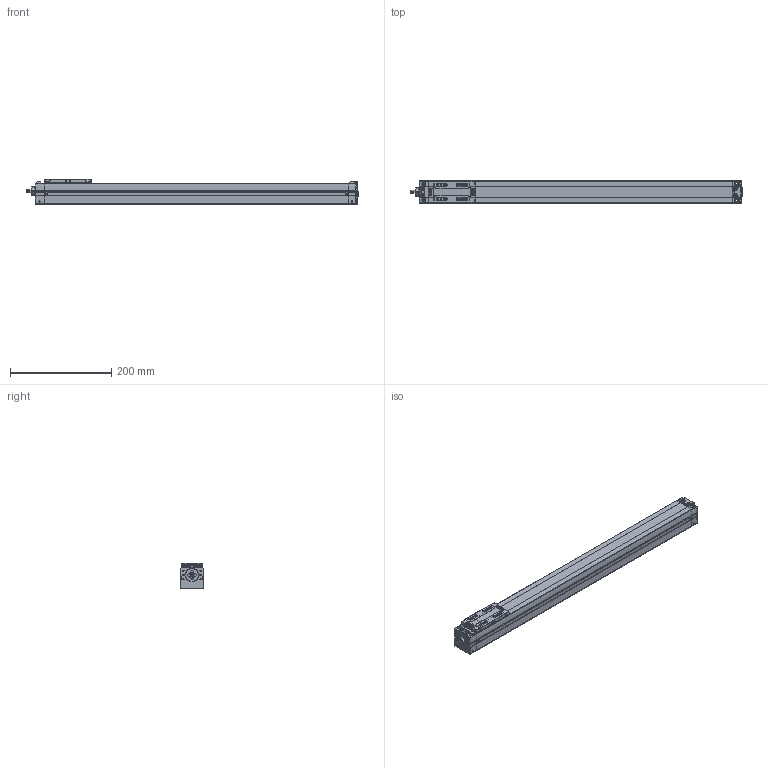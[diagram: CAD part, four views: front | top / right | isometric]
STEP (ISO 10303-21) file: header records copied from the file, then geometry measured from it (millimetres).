
FILE_DESCRIPTION(('STEP AP214'),'1');
FILE_NAME('Z:/Web/3D/SAN45/STP/SAN45ㅁㅁ-500.stp','2012-06-15T07:20:53',(' '),(' '),'Spatial InterOp 3D',' ',' ');
FILE_SCHEMA(('automotive_design'));
Length unit declared in the file: metre
Products named in the file (27): SAN45__-500; BODY-SAN45; REAR-SAN45; RRCV-SAN45; BHCS M3 x 6L; BHCS M3 X 6L; FRONT-SAN45; SHAFT; RN8 x 0.75; SSFX-SAN45; SLIDE-SAN45; SLCV-IM45; FHCS M3 x 6L
Assembly tree (26 placements, depth 3):
  SAN45__-500
    BODY-SAN45
    REAR-SAN45
      REAR-SAN45
      RRCV-SAN45
      BHCS M3 x 6L
      BHCS M3 X 6L
      BHCS M3 x 6L
      BHCS M3 x 6L
      BHCS M3 x 6L
      BHCS M3 x 6L
    FRONT-SAN45
      FRONT-SAN45
      SHAFT
      RN8 x 0.75
      SSFX-SAN45
      BHCS M3 x 6L
      BHCS M3 x 6L
      BHCS M3 x 6L
      BHCS M3 x 6L
    SLIDE-SAN45
      SLIDE-SAN45
      SLCV-IM45
      FHCS M3 x 6L
      FHCS M3 x 6L
      FHCS M3 x 6L
      FHCS M3 x 6L
Bounding box: 654.65 x 47.13 x 50 mm (x, y, z)
Volume: 1167699.1 mm3; surface area: 167408.5 mm2
Topology: 23 solids, 23 shells, 1377 faces, 3542 edges, 2300 vertices
Faces by surface type: plane 838, cylinder 396, cone 71, bspline 38, sphere 22, torus 9, extrusion 3
Full cylindrical faces by diameter (mm): 0.376 x2, 0.47 x1, 1.137 x2, 1.421 x1, 1.665 x4, 2.081 x2, 2.2 x4, 2.5 x13, 3 x6, 3.193 x4, 3.3 x4, 3.4 x4, 3.5 x6, 3.991 x2, 4.2 x14, 4.5 x4, 5 x3, 6 x6, 7 x1, 8 x8, 13 x1, 15 x1, 19 x1
Entity records: 55798 total; most frequent: CARTESIAN_POINT 11003, DIRECTION 6928, ORIENTED_EDGE 6614, EDGE_CURVE 3307, AXIS2_PLACEMENT_3D 2331, VECTOR 2266, LINE 2263, VERTEX_POINT 2256
